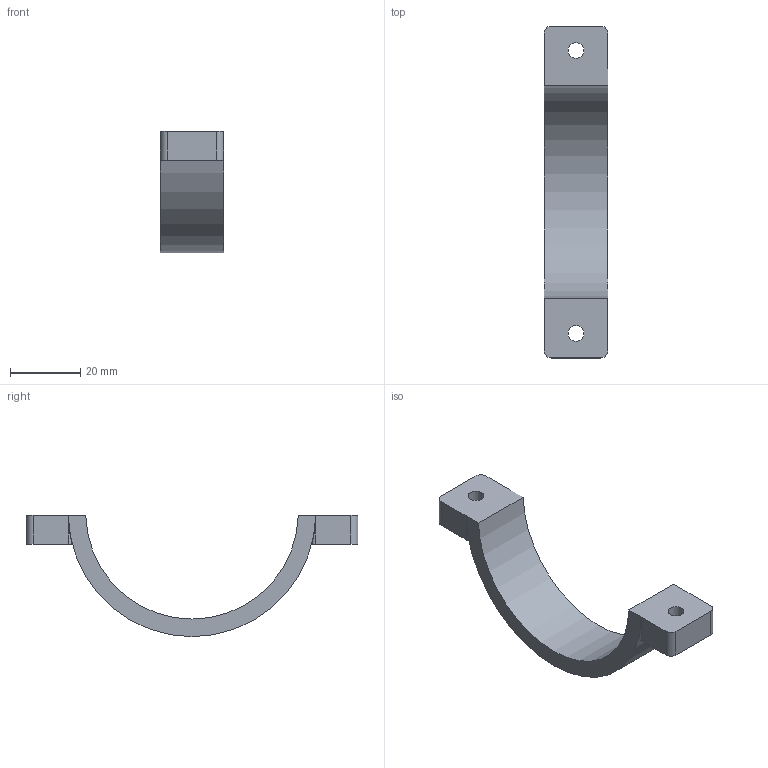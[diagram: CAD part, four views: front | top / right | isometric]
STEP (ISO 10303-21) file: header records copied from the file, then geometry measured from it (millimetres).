
FILE_DESCRIPTION(('Open CASCADE Model'),'2;1');
FILE_NAME('Open CASCADE Shape Model','2026-09-18T15:14:32',('Author'),( 'Open CASCADE'),'Open CASCADE STEP processor 7.9','Open CASCADE 7.9' ,'Unknown');
FILE_SCHEMA(('AUTOMOTIVE_DESIGN { 1 0 10303 214 1 1 1 1 }'));
Length unit declared in the file: millimetre
Products named in the file (1): Open CASCADE STEP translator 7.9 5
Bounding box: 18 x 94.6 x 34.55 mm (x, y, z)
Volume: 12341.1 mm3; surface area: 6373 mm2
Topology: 1 solids, 1 shells, 38 faces, 102 edges, 68 vertices
Faces by surface type: plane 26, cylinder 12
Full cylindrical faces by diameter (mm): 4.5 x2
Entity records: 2736 total; most frequent: CARTESIAN_POINT 751, DIRECTION 346, LINE 208, VECTOR 208, ORIENTED_EDGE 204, PCURVE 204, DEFINITIONAL_REPRESENTATION 204, EDGE_CURVE 102
